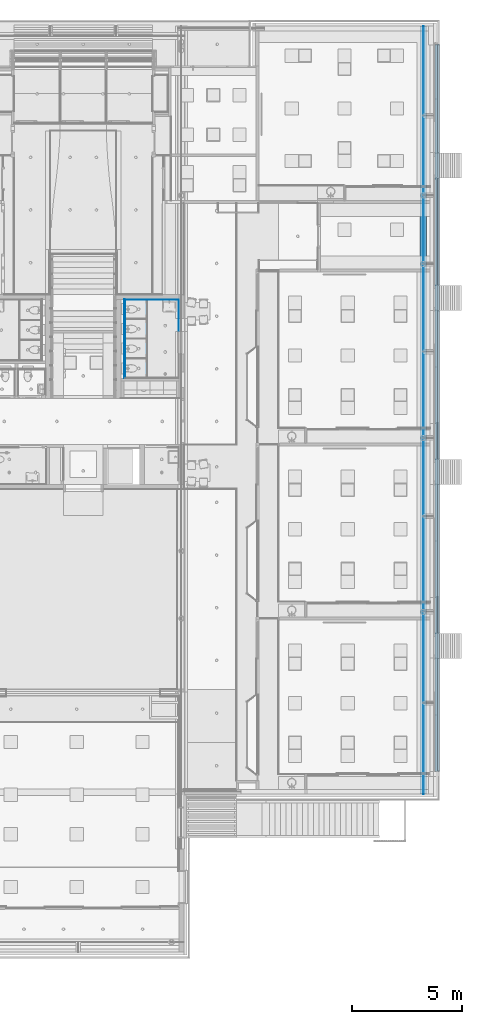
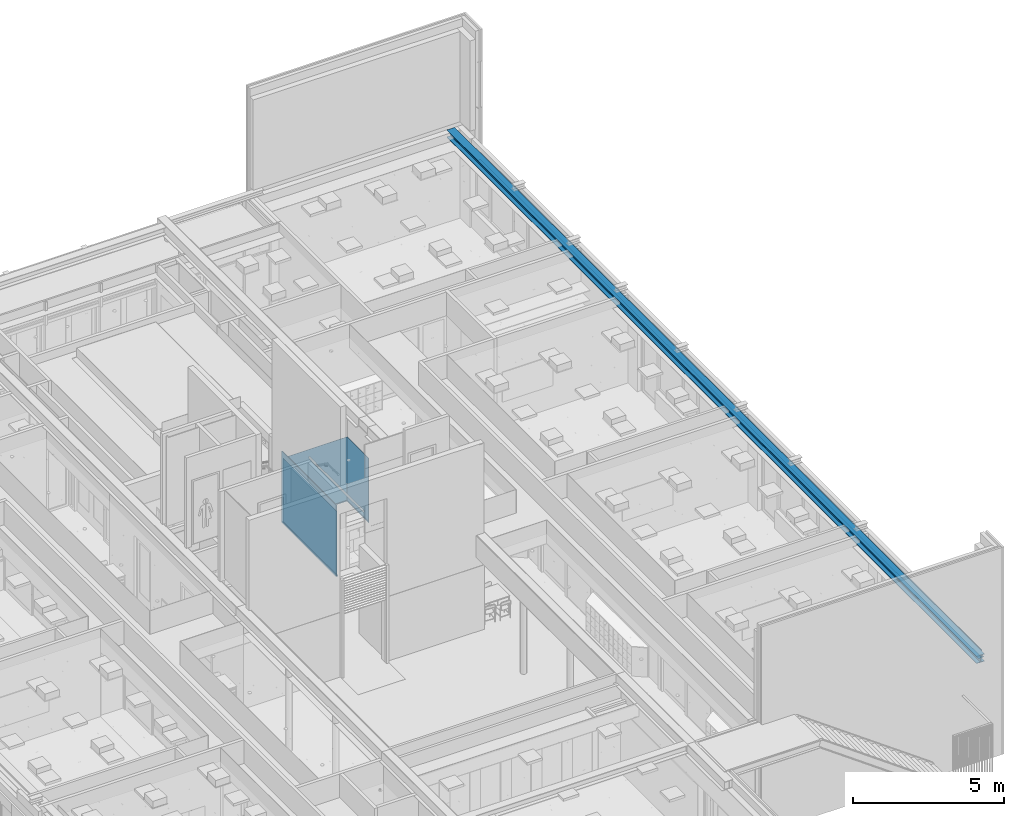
# One storey, part 121 of 347: 13 building element parts, 4 openings, 7 elements without a shape of their own, plus 1 element that does not belong to this part.
"""IFC2X3 building model written with IfcOpenShell, lengths in millimetres."""

from ifc_helpers import new_model, entity, si_unit, converted_unit, derived_unit, money_unit, direction, frame, origin_with_axes, place, context, subcontext, project, spatial, faceted_brep, material, type_object, element, aggregate, save


model = new_model("IFC2X3")

# Units and contexts
model_context = context("Model", 3, precision=0.01, world=origin_with_axes(), true_north=direction((0.0, 1.0)))
plan_context = context("Plan", 3, precision=0.01, world=origin_with_axes(), true_north=direction((0.0, 1.0)))
body_context = subcontext(model_context, "Body", "Model", "MODEL_VIEW")
ifc_project = project(units=[si_unit("LENGTHUNIT", "METRE", prefix="MILLI"), si_unit("AREAUNIT", "SQUARE_METRE"), si_unit("VOLUMEUNIT", "CUBIC_METRE"), converted_unit("PLANEANGLEUNIT", "DEGREE", entity("IfcPlaneAngleMeasure", 0.0174532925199), si_unit("PLANEANGLEUNIT", "RADIAN"), dimensions=[0, 0, 0, 0, 0, 0, 0]), money_unit("EUR"), converted_unit("TIMEUNIT", "Year", entity("IfcTimeMeasure", 31556926.0), si_unit("TIMEUNIT", "SECOND"), dimensions=[0, 0, 1, 0, 0, 0, 0]), si_unit("MASSUNIT", "GRAM", prefix="KILO"), si_unit("THERMODYNAMICTEMPERATUREUNIT", "DEGREE_CELSIUS"), si_unit("LUMINOUSINTENSITYUNIT", "LUMEN"), si_unit("ENERGYUNIT", "JOULE", prefix="MEGA"), derived_unit("THERMALCONDUCTANCEUNIT", [(si_unit("POWERUNIT", "WATT"), 1), (si_unit("LENGTHUNIT", "METRE"), -1), (si_unit("THERMODYNAMICTEMPERATUREUNIT", "KELVIN"), -1)]), derived_unit("SPECIFICHEATCAPACITYUNIT", [(si_unit("ENERGYUNIT", "JOULE"), 1), (si_unit("MASSUNIT", "GRAM", prefix="KILO"), -1), (si_unit("THERMODYNAMICTEMPERATUREUNIT", "KELVIN"), -1)]), derived_unit("MASSDENSITYUNIT", [(si_unit("MASSUNIT", "GRAM", prefix="KILO"), 1), (si_unit("VOLUMEUNIT", "CUBIC_METRE"), -1)])], contexts=[model_context, plan_context])

# Site, building, storey
site_placement = place(None, origin_with_axes())
site = spatial("IfcSite", under=ifc_project, at=site_placement, Name="Site", CompositionType="ELEMENT")
building_placement = place(site_placement, origin_with_axes())
building = spatial("IfcBuilding", under=site, at=building_placement, Name="Naam gebouw", CompositionType="ELEMENT")
storey_placement = place(building_placement, origin_with_axes())
storey = spatial("IfcBuildingStorey", under=building, at=storey_placement, Name="begane grond", CompositionType="ELEMENT", Elevation=0.0)

# Wall, openings, building element part
wall_type_1 = type_object("IfcWallType", Name="74 Kupan wand 20 x 2150", PredefinedType="NOTDEFINED")
wall_1_placement = place(storey_placement, frame((42985.0000873, 34568.9999523, 0.0), z_axis=(0.0, 0.0, 1.0), x_axis=(0.0, -1.0, 0.0)))
wall_1 = element("IfcWall", 1, at=wall_1_placement, inside=storey, type_object=wall_type_1, Name="22_74 sanitaire wand")
opening_1_placement = place(wall_1_placement, frame((1329.0, 0.0, 150.0), z_axis=(0.0, 0.0, 1.0), x_axis=(1.0, 0.0, 0.0)))
element("IfcOpeningElement", 2, at=opening_1_placement, cuts=wall_1, Name="74_A.", context=body_context, shape_type="Brep", body=[
    faceted_brep([(300.0, -26.4999992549, 2100.0), (300.0, -26.4999992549, 0.0), (300.0, 3.00000000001, 0.0), (300.0, 3.00000000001, 2100.0), (-300.0, -26.4999992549, 2100.0), (-300.0, -26.4999992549, 0.0), (-300.0, 3.00000000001, 0.0), (-300.0, 3.00000000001, 2100.0)], [[[0, 1, 2, 3]], [[0, 4, 5, 1]], [[1, 5, 6, 2]], [[3, 2, 6, 7]], [[4, 0, 3, 7]], [[5, 4, 7, 6]]]),
    faceted_brep([(300.0, 26.4999962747, 0.0), (300.0, 26.4999962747, 2100.0), (300.0, 3.00000000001, 2100.0), (300.0, 3.00000000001, 0.0), (-300.0, 26.4999962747, 0.0), (-300.0, 26.4999962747, 2100.0), (-300.0, 3.00000000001, 2100.0), (-300.0, 3.00000000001, 0.0)], [[[0, 1, 2, 3]], [[0, 4, 5, 1]], [[1, 5, 6, 2]], [[3, 2, 6, 7]], [[4, 0, 3, 7]], [[5, 4, 7, 6]]]),
])
opening_2_placement = place(wall_1_placement, frame((2229.0, 0.0, 150.0), z_axis=(0.0, 0.0, 1.0), x_axis=(1.0, 0.0, 0.0)))
element("IfcOpeningElement", 3, at=opening_2_placement, cuts=wall_1, Name="74_A.", context=body_context, shape_type="Brep", body=[
    faceted_brep([(300.0, -26.4999992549, 2100.0), (300.0, -26.4999992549, 0.0), (300.0, 3.00000000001, 0.0), (300.0, 3.00000000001, 2100.0), (-300.0, -26.4999992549, 2100.0), (-300.0, -26.4999992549, 0.0), (-300.0, 3.00000000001, 0.0), (-300.0, 3.00000000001, 2100.0)], [[[0, 1, 2, 3]], [[0, 4, 5, 1]], [[1, 5, 6, 2]], [[3, 2, 6, 7]], [[4, 0, 3, 7]], [[5, 4, 7, 6]]]),
    faceted_brep([(300.0, 26.4999962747, 0.0), (300.0, 26.4999962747, 2100.0), (300.0, 3.00000000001, 2100.0), (300.0, 3.00000000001, 0.0), (-300.0, 26.4999962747, 0.0), (-300.0, 26.4999962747, 2100.0), (-300.0, 3.00000000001, 2100.0), (-300.0, 3.00000000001, 0.0)], [[[0, 1, 2, 3]], [[0, 4, 5, 1]], [[1, 5, 6, 2]], [[3, 2, 6, 7]], [[4, 0, 3, 7]], [[5, 4, 7, 6]]]),
])
opening_3_placement = place(wall_1_placement, frame((429.0, 0.0, 150.0), z_axis=(0.0, 0.0, 1.0), x_axis=(1.0, 0.0, 0.0)))
element("IfcOpeningElement", 4, at=opening_3_placement, cuts=wall_1, Name="74_A.", context=body_context, shape_type="Brep", body=[
    faceted_brep([(-300.0, 3.00000000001, 2100.0), (-300.0, 3.00000000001, 0.0), (-300.0, -26.4999992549, 0.0), (-300.0, -26.4999992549, 2100.0), (300.0, 3.00000000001, 2100.0), (300.0, 3.00000000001, 0.0), (300.0, -26.4999992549, 0.0), (300.0, -26.4999992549, 2100.0)], [[[0, 1, 2, 3]], [[0, 4, 5, 1]], [[1, 5, 6, 2]], [[3, 2, 6, 7]], [[4, 0, 3, 7]], [[5, 4, 7, 6]]]),
    faceted_brep([(-300.0, 3.00000000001, 0.0), (-300.0, 3.00000000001, 2100.0), (-300.0, 26.4999962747, 2100.0), (-300.0, 26.4999962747, 0.0), (300.0, 3.00000000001, 0.0), (300.0, 3.00000000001, 2100.0), (300.0, 26.4999962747, 2100.0), (300.0, 26.4999962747, 0.0)], [[[0, 1, 2, 3]], [[0, 4, 5, 1]], [[1, 5, 6, 2]], [[3, 2, 6, 7]], [[4, 0, 3, 7]], [[5, 4, 7, 6]]]),
])
opening_4_placement = place(wall_1_placement, frame((3129.0, 0.0, 150.0), z_axis=(0.0, 0.0, 1.0), x_axis=(1.0, 0.0, 0.0)))
element("IfcOpeningElement", 5, at=opening_4_placement, cuts=wall_1, Name="74_A.", context=body_context, shape_type="Brep", body=[
    faceted_brep([(300.0, -26.4999992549, 2100.0), (300.0, -26.4999992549, 0.0), (300.0, 3.00000000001, 0.0), (300.0, 3.00000000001, 2100.0), (-300.0, -26.4999992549, 2100.0), (-300.0, -26.4999992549, 0.0), (-300.0, 3.00000000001, 0.0), (-300.0, 3.00000000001, 2100.0)], [[[0, 1, 2, 3]], [[0, 4, 5, 1]], [[1, 5, 6, 2]], [[3, 2, 6, 7]], [[4, 0, 3, 7]], [[5, 4, 7, 6]]]),
    faceted_brep([(300.0, 26.4999962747, 0.0), (300.0, 26.4999962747, 2100.0), (300.0, 3.00000000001, 2100.0), (300.0, 3.00000000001, 0.0), (-300.0, 26.4999962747, 0.0), (-300.0, 26.4999962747, 2100.0), (-300.0, 3.00000000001, 2100.0), (-300.0, 3.00000000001, 0.0)], [[[0, 1, 2, 3]], [[0, 4, 5, 1]], [[1, 5, 6, 2]], [[3, 2, 6, 7]], [[4, 0, 3, 7]], [[5, 4, 7, 6]]]),
])
ifc_material_1 = material(Name="Metaal - Aluminium")
building_element_part_1_placement = place(wall_1_placement, origin_with_axes())
building_element_part_1 = element("IfcBuildingElementPart", 6, at=building_element_part_1_placement, material=ifc_material_1, Name="Metaal - Aluminium", context=body_context, shape_type="Brep", body=[
    faceted_brep([(3569.00001838, -10.0, 2300.0), (3569.00001838, 10.0, 2300.0), (0.0, 10.0, 2300.0), (0.0, -10.0, 2300.0), (3569.00001838, 10.0, 2250.0), (3569.00001838, -10.0, 2250.0), (3569.00001838, -6.49999925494, 2249.99999255), (3569.00001838, 6.49999627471, 2249.99999255), (0.0, 10.0, 2250.0), (0.0, 6.49999627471, 2249.99999255), (0.0, -6.49999925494, 2249.99999255), (0.0, -10.0, 2250.0)], [[[0, 1, 2, 3]], [[4, 1, 0, 5, 6, 7]], [[1, 4, 8, 2]], [[3, 2, 8, 9, 10, 11]], [[5, 0, 3, 11]], [[6, 5, 11, 10]], [[7, 6, 10, 9]], [[4, 7, 9, 8]]]),
])
aggregate(wall_1, [building_element_part_1])

# Wall, building element parts
wall_type_2 = type_object("IfcWallType", Name="ALG LSW sanitair 100", PredefinedType="NOTDEFINED")
wall_2_placement = place(storey_placement, frame((41975.0, 30989.9999277, 0.0), z_axis=(0.0, 0.0, 1.0), x_axis=(0.0, 1.0, 0.0)))
wall_2 = element("IfcWall", 7, at=wall_2_placement, inside=storey, type_object=wall_type_2, Name="21_GF 100 ECO RD V/75.2.A")
ifc_material_2 = material(Name="Hout - Multiplex wbp")
building_element_part_2_placement = place(wall_2_placement, origin_with_axes())
building_element_part_2 = element("IfcBuildingElementPart", 8, at=building_element_part_2_placement, material=ifc_material_2, Name="Hout - Multiplex wbp", context=body_context, shape_type="Brep", body=[
    faceted_brep([(3600.00007235, 12.0, 0.0), (0.0, 12.0, 0.0), (0.0, 30.0, 0.0), (3600.00007235, 30.0, 0.0), (3600.00007235, 12.0, 2880.0), (0.0, 12.0, 2880.0), (0.0, 30.0, 2880.0), (3600.00007235, 30.0, 2880.0)], [[[0, 1, 2, 3]], [[4, 5, 1, 0]], [[2, 1, 5, 6]], [[3, 2, 6, 7]], [[3, 7, 4, 0]], [[7, 6, 5, 4]]]),
])
ifc_material_3 = material(Name="ALG - LICHTE SCHEIDINGSWAND AFW")
building_element_part_3_placement = place(wall_2_placement, origin_with_axes())
building_element_part_3 = element("IfcBuildingElementPart", 9, at=building_element_part_3_placement, material=ifc_material_3, Name="ALG - LICHTE SCHEIDINGSWAND AFW", context=body_context, shape_type="Brep", body=[
    faceted_brep([(3600.00007235, 0.0, 0.0), (0.0, 0.0, 0.0), (0.0, 12.0, 0.0), (3600.00007235, 12.0, 0.0), (3600.00007235, 0.0, 2880.0), (0.0, 0.0, 2880.0), (0.0, 12.0, 2880.0), (3600.00007235, 12.0, 2880.0)], [[[0, 1, 2, 3]], [[4, 5, 1, 0]], [[2, 1, 5, 6]], [[3, 2, 6, 7]], [[3, 7, 4, 0]], [[7, 6, 5, 4]]]),
])
aggregate(wall_2, [building_element_part_2, building_element_part_3])

# Proxy, building element parts
building_element_proxy_type = type_object("IfcBuildingElementProxyType", Name="wandtegels 150x300 2600+ 10 x 2600", PredefinedType="NOTDEFINED")
proxy_1_placement = place(storey_placement, frame((44425.0000972, 34569.9999308, 0.0), z_axis=(0.0, 0.0, 1.0), x_axis=(0.0, -1.0, 0.0)))
proxy_1 = element("IfcBuildingElementProxy", 10, at=proxy_1_placement, inside=storey, type_object=building_element_proxy_type, Name="42_44 wandtegels keramisch")
ifc_material_4 = material(Name="48 vloeivloer Bolidt")
building_element_part_4_placement = place(proxy_1_placement, origin_with_axes())
building_element_part_4 = element("IfcBuildingElementPart", 11, at=building_element_part_4_placement, material=ifc_material_4, Name="48 vloeivloer Bolidt", context=body_context, shape_type="Brep", body=[
    faceted_brep([(-10.0000651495, 10.0000089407, 0.0), (-10.0000651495, 10.0000089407, 50.0000059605), (1416.00000317, 10.0000089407, 50.0000059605), (1416.00000317, 10.0000089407, 0.0), (-10.0000651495, 8.00001490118, 0.0), (-10.0000651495, 8.00001490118, 50.0000059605), (1416.00000317, 8.00001490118, 50.0000059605), (1416.00000317, 8.00001490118, 0.0)], [[[0, 1, 2, 3]], [[1, 0, 4, 5]], [[1, 5, 6, 2]], [[7, 3, 2, 6]], [[4, 0, 3, 7]], [[5, 4, 7, 6]]]),
])
ifc_material_5 = material(Name="Tegels - Wand")
building_element_part_5_placement = place(proxy_1_placement, origin_with_axes())
building_element_part_5 = element("IfcBuildingElementPart", 12, at=building_element_part_5_placement, material=ifc_material_5, Name="Tegels - Wand", context=body_context, shape_type="Brep", body=[
    faceted_brep([(-10.0000651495, 10.0, 50.0000059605), (-10.0000651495, 10.0, 2600.0), (1416.00000317, 10.0, 2600.0), (1416.00000317, 10.0, 50.0), (-10.0000651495, 0.0, 2600.0), (-10.0000651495, 8.00001490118, 50.0000059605), (-10.0000651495, 0.0, 50.0000059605), (1416.00000317, 0.0, 2600.0), (1416.00000317, 0.0, 50.0), (1416.00000317, 8.00001490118, 50.0000059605)], [[[0, 1, 2, 3]], [[4, 1, 0, 5, 6]], [[1, 4, 7, 2]], [[2, 7, 8, 9, 3]], [[5, 0, 3, 9]], [[6, 5, 9, 8]], [[4, 6, 8, 7]]]),
])
aggregate(proxy_1, [building_element_part_4, building_element_part_5])

proxy_2_placement = place(storey_placement, frame((41995.0, 31009.9999435, 0.0), z_axis=(0.0, 0.0, 1.0), x_axis=(0.0, 1.0, 0.0)))
proxy_2 = element("IfcBuildingElementProxy", 13, at=proxy_2_placement, inside=storey, type_object=building_element_proxy_type, Name="42_46 wandtegels keramisch")
building_element_part_6_placement = place(proxy_2_placement, origin_with_axes())
building_element_part_6 = element("IfcBuildingElementPart", 14, at=building_element_part_6_placement, material=ifc_material_4, Name="48 vloeivloer Bolidt", context=body_context, shape_type="Brep", body=[
    faceted_brep([(-8.00003045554, 10.0000089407, 50.0000059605), (-8.00003045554, 8.00001490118, 50.0000059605), (3570.00005245, 8.00001490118, 50.0000059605), (3570.00005245, 10.0000089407, 50.0000059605), (-8.00003045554, 8.00001490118, 0.0), (-8.00003045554, 10.0000089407, 0.0), (3570.00005245, 8.00001490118, 0.0), (3570.00005245, 10.0000089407, 0.0)], [[[0, 1, 2, 3]], [[4, 1, 0, 5]], [[1, 4, 6, 2]], [[3, 2, 6, 7]], [[5, 0, 3, 7]], [[4, 5, 7, 6]]]),
])
building_element_part_7_placement = place(proxy_2_placement, origin_with_axes())
building_element_part_7 = element("IfcBuildingElementPart", 15, at=building_element_part_7_placement, material=ifc_material_5, Name="Tegels - Wand", context=body_context, shape_type="Brep", body=[
    faceted_brep([(-1.55543631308e-05, 10.0, 2600.0), (-1.55543631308e-05, 0.0, 2600.0), (3570.00005245, 0.0, 2600.0), (3570.00005245, 10.0, 2600.0), (-1.55543631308e-05, 0.0, 50.0), (-1.55543631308e-05, 10.0, 50.0), (-1.55543631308e-05, 8.00001490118, 50.0), (3570.00005245, 0.0, 50.0000059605), (3570.00005245, 8.00001490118, 50.0000059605), (3570.00005245, 10.0, 50.0000059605)], [[[0, 1, 2, 3]], [[4, 1, 0, 5, 6]], [[1, 4, 7, 2]], [[7, 8, 9, 3, 2]], [[5, 0, 3, 9]], [[6, 5, 9, 8]], [[4, 6, 8, 7]]]),
])
aggregate(proxy_2, [building_element_part_6, building_element_part_7])

proxy_3_placement = place(storey_placement, frame((41995.0, 34569.999999, 0.0), z_axis=(0.0, 0.0, 1.0), x_axis=(1.0, -2.80369274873e-08, 0.0)))
proxy_3 = element("IfcBuildingElementProxy", 16, at=proxy_3_placement, inside=storey, type_object=building_element_proxy_type, Name="42_47 wandtegels keramisch")
building_element_part_8_placement = place(proxy_3_placement, origin_with_axes())
building_element_part_8 = element("IfcBuildingElementPart", 17, at=building_element_part_8_placement, material=ifc_material_4, Name="48 vloeivloer Bolidt", context=body_context, shape_type="Brep", body=[
    faceted_brep([(-8.00001518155, 10.0000087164, 0.0), (-8.00001518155, 10.0000087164, 50.0000059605), (2438.00011181, 10.0000772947, 50.0000059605), (2438.00011181, 10.0000772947, 0.0), (-8.00001512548, 8.00001467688, 50.0000059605), (-8.00001512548, 8.00001467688, 0.0), (2438.00011187, 8.0000832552, 50.0000059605), (2438.00011187, 8.0000832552, 0.0)], [[[0, 1, 2, 3]], [[4, 1, 0, 5]], [[1, 4, 6, 2]], [[3, 2, 6, 7]], [[5, 0, 3, 7]], [[4, 5, 7, 6]]]),
])
building_element_part_9_placement = place(proxy_3_placement, origin_with_axes())
building_element_part_9 = element("IfcBuildingElementPart", 18, at=building_element_part_9_placement, material=ifc_material_5, Name="Tegels - Wand", context=body_context, shape_type="Brep", body=[
    faceted_brep([(-2.80373058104e-07, 10.0, 50.0), (-2.80373058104e-07, 10.0, 2600.0), (2430.00009691, 10.0000681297, 2600.0), (2430.00009691, 10.0000681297, 50.0), (0.0, 0.0, 2600.0), (-2.24297025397e-07, 8.00001490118, 50.0), (0.0, 0.0, 50.0), (2430.00009719, 6.8129736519e-05, 2600.0), (2430.00009719, 6.8129736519e-05, 50.0), (2430.00009697, 8.00008303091, 50.0)], [[[0, 1, 2, 3]], [[4, 1, 0, 5, 6]], [[1, 4, 7, 2]], [[3, 2, 7, 8, 9]], [[5, 0, 3, 9]], [[6, 5, 9, 8]], [[4, 6, 8, 7]]]),
])
aggregate(proxy_3, [building_element_part_8, building_element_part_9])

# Beam, building element parts
beam_type_1 = type_object("IfcBeamType", Name="28 HEB300 300 x 300", PredefinedType="BEAM")
beam_1_placement = place(storey_placement, frame((55575.0, 47036.9999775, 3560.0), z_axis=(0.0, 0.0, 1.0), x_axis=(-1.0, 0.0, 0.0)))
beam_1 = element("IfcBeam", 19, at=beam_1_placement, inside=storey, type_object=beam_type_1, Name="28_Balk-x", ObjectType="BEAM")
ifc_material_6 = material(Name="Metaal - Staal C")
building_element_part_10_placement = place(beam_1_placement, origin_with_axes())
building_element_part_10 = element("IfcBuildingElementPart", 20, at=building_element_part_10_placement, material=ifc_material_6, Name="Metaal - Staal C", context=body_context, shape_type="Brep", body=[
    faceted_brep([(-150.0, 34986.9999438, -19.0), (-5.5, 34986.9999438, -19.0), (-5.5, 0.0, -19.0), (-150.0, 0.0, -19.0), (-150.0, 34986.9999438, 0.0), (150.0, 34986.9999438, 0.0), (150.0, 34986.9999438, -19.0), (5.5, 34986.9999438, -19.0), (5.5, 0.0, -19.0), (150.0, 0.0, -19.0), (150.0, 0.0, 0.0), (-150.0, 0.0, 0.0)], [[[0, 1, 2, 3]], [[0, 4, 5, 6, 7, 1]], [[1, 7, 8, 2]], [[3, 2, 8, 9, 10, 11]], [[4, 0, 3, 11]], [[5, 4, 11, 10]], [[6, 5, 10, 9]], [[7, 6, 9, 8]]]),
])
building_element_part_11_placement = place(beam_1_placement, origin_with_axes())
building_element_part_11 = element("IfcBuildingElementPart", 21, at=building_element_part_11_placement, material=ifc_material_6, Name="Metaal - Staal C", context=body_context, shape_type="Brep", body=[
    faceted_brep([(-150.0, 34986.9999438, -281.0), (-150.0, 34986.9999438, -300.0), (-150.0, 0.0, -300.0), (-150.0, 0.0, -281.0), (-5.5, 34986.9999438, -281.0), (5.5, 34986.9999438, -281.0), (150.0, 34986.9999438, -281.0), (150.0, 34986.9999438, -300.0), (150.0, 0.0, -300.0), (150.0, 0.0, -281.0), (5.5, 0.0, -281.0), (-5.5, 0.0, -281.0)], [[[0, 1, 2, 3]], [[0, 4, 5, 6, 7, 1]], [[1, 7, 8, 2]], [[3, 2, 8, 9, 10, 11]], [[4, 0, 3, 11]], [[5, 4, 11, 10]], [[6, 5, 10, 9]], [[7, 6, 9, 8]]]),
])
building_element_part_12_placement = place(beam_1_placement, origin_with_axes())
building_element_part_12 = element("IfcBuildingElementPart", 22, at=building_element_part_12_placement, material=ifc_material_6, Name="Metaal - Staal C", context=body_context, shape_type="Brep", body=[
    faceted_brep([(-5.5, 34986.9999438, -281.0), (5.5, 34986.9999438, -281.0), (5.5, 0.0, -281.0), (-5.5, 0.0, -281.0), (-5.5, 34986.9999438, -19.0), (5.5, 34986.9999438, -19.0), (5.5, 0.0, -19.0), (-5.5, 0.0, -19.0)], [[[0, 1, 2, 3]], [[0, 4, 5, 1]], [[1, 5, 6, 2]], [[3, 2, 6, 7]], [[4, 0, 3, 7]], [[5, 4, 7, 6]]]),
])
aggregate(beam_1, [building_element_part_10, building_element_part_11, building_element_part_12])

beam_type_2 = type_object("IfcBeamType", Name="21 geveldrager (2600+) 208 x 300", PredefinedType="LINTEL")
beam_2_placement = place(storey_placement, frame((55875.0000263, 13087.5, 0.0), z_axis=(0.0, 0.0, 1.0), x_axis=(1.0, 0.0, 0.0)))
beam_2 = element("IfcBeam", 23, at=beam_2_placement, inside=storey, type_object=beam_type_2, Name="21_21 geveldrager", ObjectType="LINTEL")
building_element_part_13_placement = place(beam_2_placement, origin_with_axes())
building_element_part_13 = element("IfcBuildingElementPart", 24, at=building_element_part_13_placement, material=ifc_material_6, Name="Metaal - Staal C", context=body_context, shape_type="Brep", body=[
    faceted_brep([(359.999999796, 33119.5000325, 2605.00000002), (359.999999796, 33119.5000325, 2900.00000119), (359.999999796, 0.0, 2900.00000119), (359.999999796, 0.0, 2605.00000002), (430.000000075, 33119.5000325, 2605.00000002), (430.000000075, 33119.5000325, 2600.0), (354.999995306, 33119.5000325, 2600.0), (354.999995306, 33119.5000325, 2601.0), (354.999995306, 33119.5000325, 2900.00000119), (354.999995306, 0.0, 2900.00000119), (354.999995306, 0.0, 2601.0), (354.999995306, 0.0, 2600.0), (430.000000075, 0.0, 2600.0), (430.000000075, 0.0, 2605.00000002)], [[[0, 1, 2, 3]], [[0, 4, 5, 6, 7, 8, 1]], [[1, 8, 9, 2]], [[3, 2, 9, 10, 11, 12, 13]], [[4, 0, 3, 13]], [[5, 4, 13, 12]], [[6, 5, 12, 11]], [[7, 6, 11, 10]], [[8, 7, 10, 9]]]),
])
building_element_part_14_placement = place(beam_2_placement, origin_with_axes())
building_element_part_14 = element("IfcBuildingElementPart", 25, at=building_element_part_14_placement, material=ifc_material_6, Name="Metaal - Staal C", context=body_context, shape_type="Brep", body=[
    faceted_brep([(354.999996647, 33119.5000325, 2601.0), (222.0, 33119.5000325, 2601.0), (222.0, 0.0, 2601.0), (354.999996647, 0.0, 2601.0), (354.999996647, 33119.5000325, 2600.0), (222.0, 33119.5000325, 2600.0), (222.0, 0.0, 2600.0), (354.999996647, 0.0, 2600.0)], [[[0, 1, 2, 3]], [[0, 4, 5, 1]], [[1, 5, 6, 2]], [[3, 2, 6, 7]], [[4, 0, 3, 7]], [[5, 4, 7, 6]]]),
])
aggregate(beam_2, [building_element_part_13, building_element_part_14])

save(model, "model.ifc")
